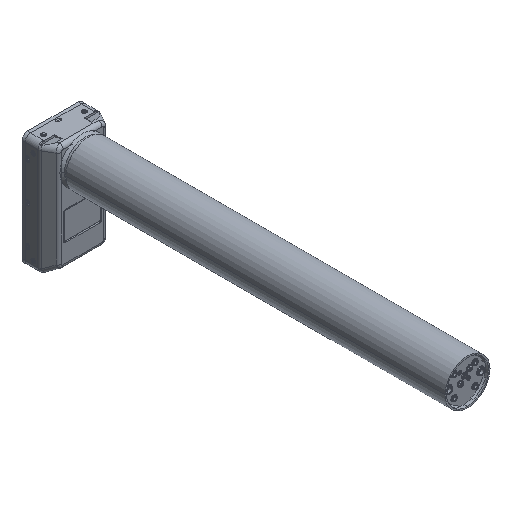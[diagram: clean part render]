
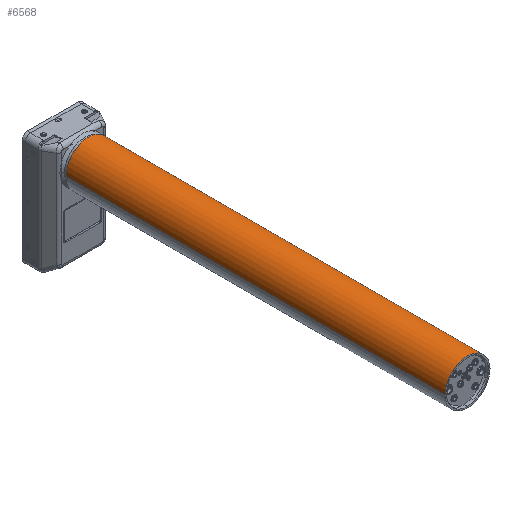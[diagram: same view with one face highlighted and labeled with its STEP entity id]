
A CAD part, isometric view. The second image highlights one B-rep face of the part: STEP entity #6568.
In plain terms, the highlighted cylindrical face has radius 35 mm (diameter 70 mm), a partial arc.
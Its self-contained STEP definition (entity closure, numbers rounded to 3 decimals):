
#1418=CARTESIAN_POINT('',(0.,-498.,0.));
#1419=DIRECTION('',(0.,1.,0.));
#1420=DIRECTION('',(-1.,0.,0.));
#1421=AXIS2_PLACEMENT_3D('',#1418,#1419,#1420);
#1438=DIRECTION('',(0.,-1.,0.));
#1439=VECTOR('',#1438,590.);
#1440=CARTESIAN_POINT('',(35.,92.,0.));
#1441=LINE('',#1440,#1439);
#1442=CARTESIAN_POINT('',(0.,92.,0.));
#1443=DIRECTION('',(0.,-1.,0.));
#1444=DIRECTION('',(1.,0.,0.));
#1445=AXIS2_PLACEMENT_3D('',#1442,#1443,#1444);
#1472=DIRECTION('',(0.,-1.,0.));
#1473=VECTOR('',#1472,590.);
#1474=CARTESIAN_POINT('',(-35.,92.,0.));
#1475=LINE('',#1474,#1473);
#5560=CARTESIAN_POINT('',(-35.,-498.,0.));
#5561=CARTESIAN_POINT('',(35.,-498.,0.));
#5562=VERTEX_POINT('',#5560);
#5563=VERTEX_POINT('',#5561);
#5564=CARTESIAN_POINT('',(35.,92.,0.));
#5565=CARTESIAN_POINT('',(-35.,92.,0.));
#5566=VERTEX_POINT('',#5564);
#5567=VERTEX_POINT('',#5565);
#6554=CARTESIAN_POINT('',(0.,0.,0.));
#6555=DIRECTION('',(0.,-1.,0.));
#6556=DIRECTION('',(1.,0.,0.));
#6557=AXIS2_PLACEMENT_3D('',#6554,#6555,#6556);
#6558=CYLINDRICAL_SURFACE('',#6557,35.);
#6560=ORIENTED_EDGE('',*,*,#6559,.F.);
#6562=ORIENTED_EDGE('',*,*,#6561,.T.);
#6563=ORIENTED_EDGE('',*,*,#6543,.F.);
#6565=ORIENTED_EDGE('',*,*,#6564,.F.);
#6566=EDGE_LOOP('',(#6560,#6562,#6563,#6565));
#6567=FACE_OUTER_BOUND('',#6566,.F.);
#1422=CIRCLE('',#1421,35.);
#1446=CIRCLE('',#1445,35.);
#6543=EDGE_CURVE('',#5562,#5563,#1422,.T.);
#6559=EDGE_CURVE('',#5566,#5567,#1446,.T.);
#6561=EDGE_CURVE('',#5566,#5563,#1441,.T.);
#6564=EDGE_CURVE('',#5567,#5562,#1475,.T.);
#6568=ADVANCED_FACE('',(#6567),#6558,.T.);
